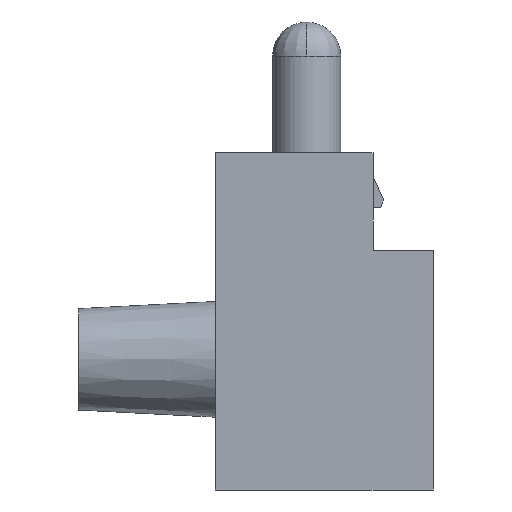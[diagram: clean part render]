
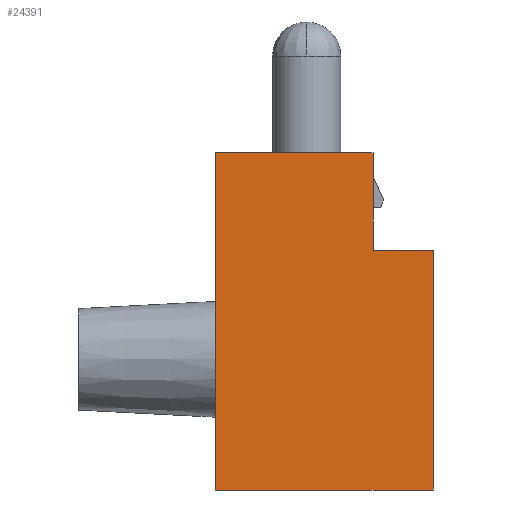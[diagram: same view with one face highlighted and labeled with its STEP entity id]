
A CAD part, left-side view. The second image highlights one B-rep face of the part: STEP entity #24391.
In plain terms, the highlighted planar face has unit normal (-1, 0, 0).
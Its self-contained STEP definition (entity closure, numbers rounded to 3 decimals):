
#12331=CARTESIAN_POINT(' ',(-3.15,8.1,-17.3));
#12332=VERTEX_POINT(' ',#12331);
#12346=CARTESIAN_POINT(' ',(-3.15,8.1,0.));
#12351=DIRECTION(' ',(0.,0.,-1.));
#12356=VECTOR(' ',#12351,1.);
#12361=LINE('',#12346,#12356);
#12366=CARTESIAN_POINT(' ',(-3.15,8.1,0.));
#12367=VERTEX_POINT(' ',#12366);
#12371=EDGE_CURVE(' ',#12367,#12332,#12361,.T.);
#13256=CARTESIAN_POINT(' ',(-3.15,0.,-17.3));
#13257=VERTEX_POINT(' ',#13256);
#13271=CARTESIAN_POINT(' ',(-3.15,8.1,-17.3));
#13276=DIRECTION(' ',(0.,-1.,0.));
#13281=VECTOR(' ',#13276,1.);
#13286=LINE('',#13271,#13281);
#13291=EDGE_CURVE(' ',#12332,#13257,#13286,.T.);
#23921=CARTESIAN_POINT(' ',(-3.15,0.,0.));
#23926=DIRECTION(' ',(0.,1.,0.));
#23931=VECTOR(' ',#23926,1.);
#23936=LINE('',#23921,#23931);
#23941=CARTESIAN_POINT(' ',(-3.15,0.,0.));
#23942=VERTEX_POINT(' ',#23941);
#23946=EDGE_CURVE(' ',#23942,#12367,#23936,.T.);
#24206=CARTESIAN_POINT(' ',(-3.15,9.22,-19.03));
#24211=DIRECTION(' ',(-1.,0.,0.));
#24216=DIRECTION(' ',(0.,-1.,0.));
#24221=AXIS2_PLACEMENT_3D(' ',#24206,#24211,#24216);
#24226=PLANE(' ',#24221);
#24231=ORIENTED_EDGE(' ',*,*,#23946,.T.);
#24236=ORIENTED_EDGE(' ',*,*,#12371,.T.);
#24241=ORIENTED_EDGE(' ',*,*,#13291,.T.);
#24246=CARTESIAN_POINT(' ',(-3.15,0.,-17.3));
#24251=DIRECTION(' ',(0.,-1.,0.));
#24256=VECTOR(' ',#24251,1.);
#24261=LINE('',#24246,#24256);
#24266=CARTESIAN_POINT(' ',(-3.15,-3.1,-17.3));
#24267=VERTEX_POINT(' ',#24266);
#24271=EDGE_CURVE(' ',#13257,#24267,#24261,.T.);
#24276=ORIENTED_EDGE(' ',*,*,#24271,.T.);
#24281=CARTESIAN_POINT(' ',(-3.15,-3.1,-5.));
#24286=DIRECTION(' ',(0.,0.,-1.));
#24291=VECTOR(' ',#24286,1.);
#24296=LINE('',#24281,#24291);
#24301=CARTESIAN_POINT(' ',(-3.15,-3.1,-5.));
#24302=VERTEX_POINT(' ',#24301);
#24306=EDGE_CURVE(' ',#24302,#24267,#24296,.T.);
#24311=ORIENTED_EDGE(' ',*,*,#24306,.F.);
#24316=CARTESIAN_POINT(' ',(-3.15,0.,-5.));
#24321=DIRECTION(' ',(0.,-1.,0.));
#24326=VECTOR(' ',#24321,1.);
#24331=LINE('',#24316,#24326);
#24336=CARTESIAN_POINT(' ',(-3.15,0.,-5.));
#24337=VERTEX_POINT(' ',#24336);
#24341=EDGE_CURVE(' ',#24337,#24302,#24331,.T.);
#24346=ORIENTED_EDGE(' ',*,*,#24341,.F.);
#24351=CARTESIAN_POINT(' ',(-3.15,0.,0.));
#24356=DIRECTION(' ',(0.,0.,-1.));
#24361=VECTOR(' ',#24356,1.);
#24366=LINE('',#24351,#24361);
#24371=EDGE_CURVE(' ',#23942,#24337,#24366,.T.);
#24376=ORIENTED_EDGE(' ',*,*,#24371,.F.);
#24381=EDGE_LOOP(' ',(#24231,#24236,#24241,#24276,#24311,#24346,#24376));
#24386=FACE_OUTER_BOUND(' ',#24381,.T.);
#24391=ADVANCED_FACE('',(#24386),#24226,.T.);
